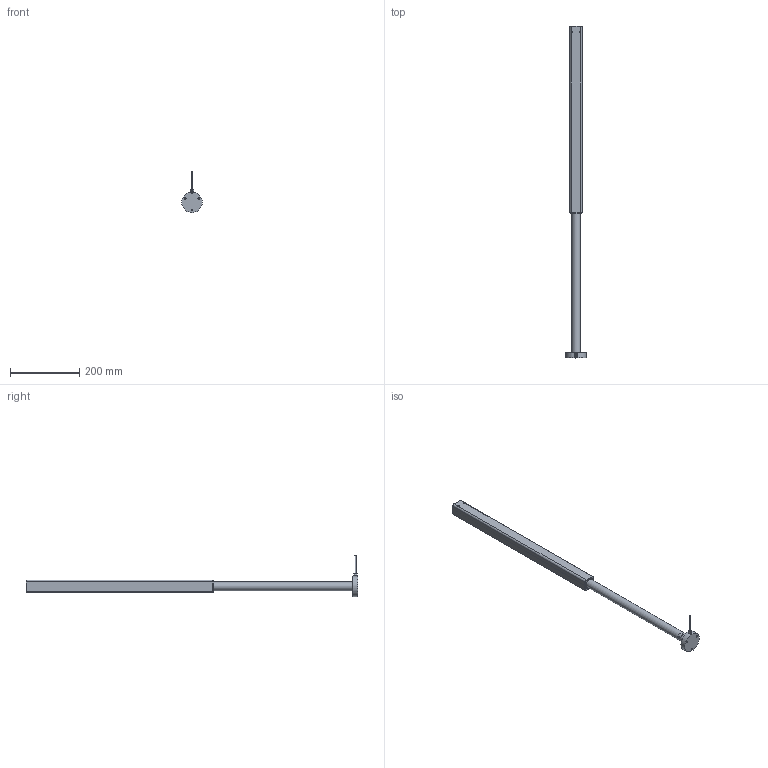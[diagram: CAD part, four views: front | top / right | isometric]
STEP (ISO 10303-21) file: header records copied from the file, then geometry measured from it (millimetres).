
FILE_DESCRIPTION(/* description */ ('Unknown'),/* implementation_level */ '2;1');
FILE_NAME(/* name */ '106.20044 Lineareinheit LD 1840_ausgefahren',/* time_stamp */ '2017-11-02T16:57:02+01:00',/* author */ ('Unknown'),/* organization */ ('Unknown'),/* preprocessor_version */ 'ST-DEVELOPER v16.7',/* originating_system */ 'DEX',/* authorisation */ $);
FILE_SCHEMA (('AUTOMOTIVE_DESIGN {1 0 10303 214 3 1 1}'));
Products named in the file (11): 106.20044; 119.00004; 142.00014; 142.00021; 125.00021; 115.00008; 125.00049; 122.00018; 125.00055; 123.00004; 113.00002_70mm
Assembly tree (11 placements, depth 2):
  106.20044
    119.00004
    142.00014  x2
    142.00021
    125.00021
    115.00008
    125.00049
    122.00018
    125.00055
    123.00004
    113.00002_70mm
Bounding box: 59.5 x 959.25 x 119 mm (x, y, z)
Volume: 416803.7 mm3; surface area: 255866.3 mm2
Topology: 10 solids, 10 shells, 815 faces, 1906 edges, 1139 vertices
Faces by surface type: cylinder 277, bspline 224, plane 222, cone 50, torus 29, sphere 13
Full cylindrical faces by diameter (mm): 2.2 x1, 3.5 x2, 4 x7, 4.1 x1, 4.134 x4, 4.2 x1, 4.917 x3, 6.647 x1, 6.917 x2, 8 x2, 14.4 x1, 17.3 x2, 17.9 x2, 19 x2, 20.8 x4, 21 x1, 25 x1, 30.63 x1, 59.5 x1
Entity records: 76157 total; most frequent: CARTESIAN_POINT 59524, ORIENTED_EDGE 3520, DIRECTION 2681, EDGE_CURVE 1760, VERTEX_POINT 1084, AXIS2_PLACEMENT_3D 1046, FACE_BOUND 938, EDGE_LOOP 936
